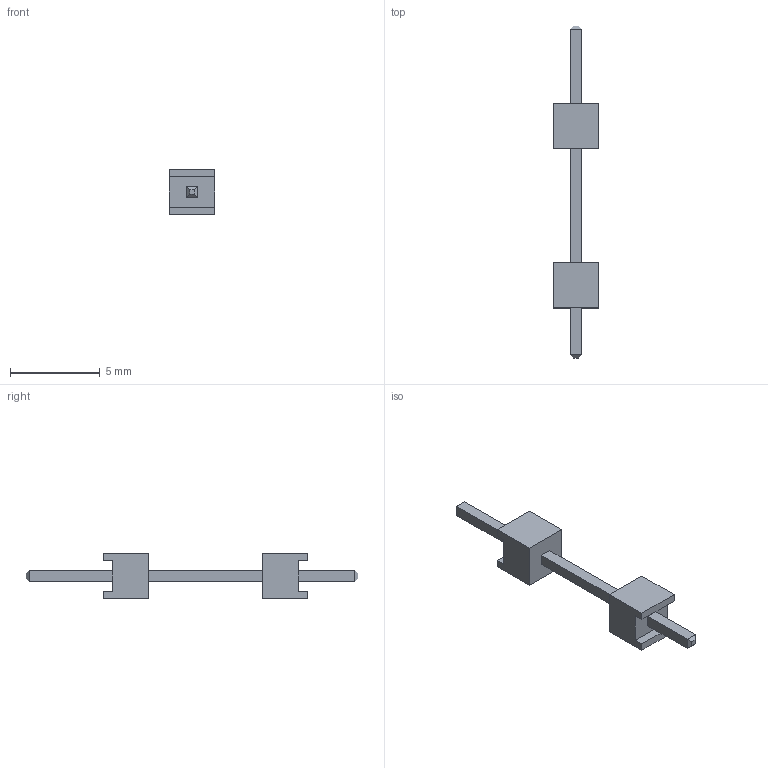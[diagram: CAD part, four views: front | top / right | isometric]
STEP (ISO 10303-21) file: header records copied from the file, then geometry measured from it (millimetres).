
FILE_DESCRIPTION(/* description */ ('STEP AP242','CAx-IF Rec.Pracs.---Representation and Presentation of Product Manufacturing Information (PMI)---4.0---2014-10-13','CAx-IF Rec.Pracs.---3D Tessellated Geometry---0.4---2014-09-14','2;1'),/* implementation_level */ '2;1');
FILE_NAME(/* name */ 'DW-01-09-T-S-450',/* time_stamp */ '2025-12-01T20:46:50+01:00',/* author */ ('License CC BY-ND 4.0'),/* organization */ ('CADENAS'),/* preprocessor_version */ 'ST-DEVELOPER v20',/* originating_system */ 'PARTsolutions',/* authorisation */ ' ');
FILE_SCHEMA (('AP242_MANAGED_MODEL_BASED_3D_ENGINEERING_MIM_LF { 1 0 10303 442 1 1 4 }'));
Length unit declared in the file: inch
Products named in the file (4): DW-01-09-T-S-450; ZW-01-09-G-S-450-110bbody; ZW-01-09-G-S-450-110_pins; ZW-01-09-G-S-450-110_top_body
Assembly tree (3 placements, depth 2):
  DW-01-09-T-S-450
    ZW-01-09-G-S-450-110bbody
    ZW-01-09-G-S-450-110_pins
    ZW-01-09-G-S-450-110_top_body
Bounding box: 2.54 x 18.54 x 2.54 mm (x, y, z)
Volume: 34.3 mm3; surface area: 135.7 mm2
Topology: 3 solids, 3 shells, 46 faces, 112 edges, 72 vertices
Faces by surface type: plane 46
Entity records: 1416 total; most frequent: CARTESIAN_POINT 234, ORIENTED_EDGE 224, DIRECTION 212, EDGE_CURVE 112, LINE 112, VECTOR 112, VERTEX_POINT 72, EDGE_LOOP 50
